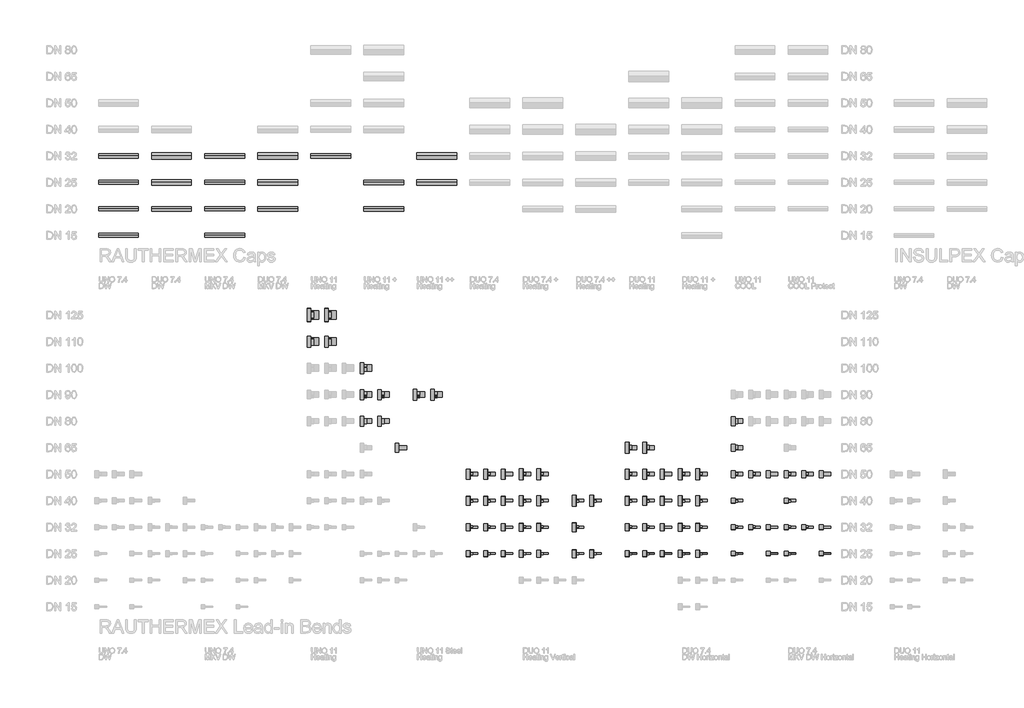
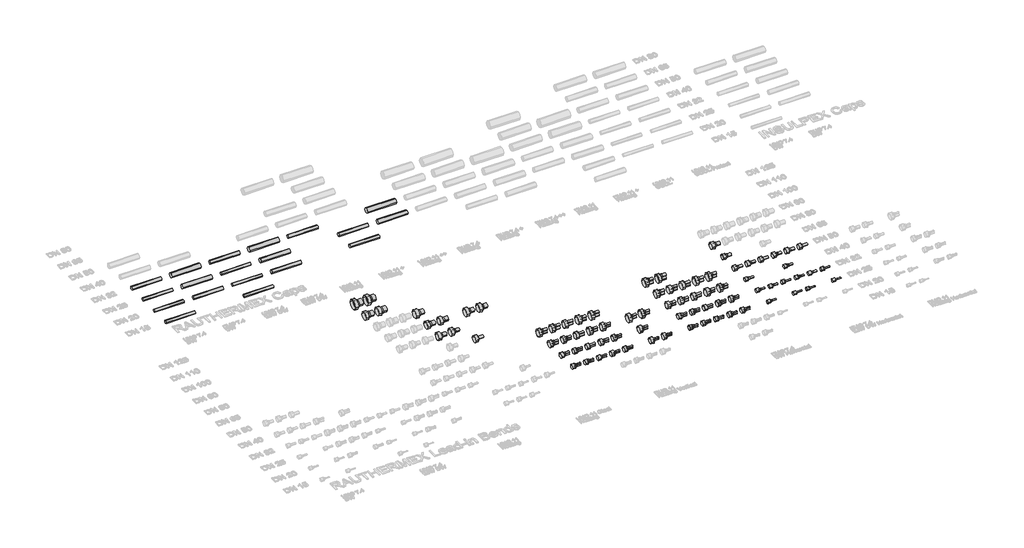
# One storey, part 2 of 44: 79 pipe fittings, 19 pipe segments.
"""IFC4 building model written with IfcOpenShell, lengths in millimetres."""

from ifc_helpers import new_model, si_unit, point, frame, frame_2d, origin, place, context, project, spatial, circle_curve, trimmed, segment, composite_curve, outline, extrude, transform, mapped, element, save
from components import dh_duo_cap_a401f0f0, dh_duo_cap_03c105d8, dh_duo_cap_912dcadd, dh_duo_cap_b1a9b0d2, dh_duo_cap_5dd0b46b, dh_duo_cap_e54493b7, dh_duo_cap_7ef36e62, dh_duo_cap_bc41557e, dh_duo_cap_466f777b, dh_duo_cap_99a229fd, dh_duo_cap_04a83930, dh_duo_cap_9e0c2c41, dh_duo_cap_2d3aefab, dh_duo_cap_8982807d, dh_duo_cap_f27f4780, dh_duo_cap_196220e5, dh_duo_cap_34ed25f1, dh_duo_cap_d5bb5216, dh_duo_cap_5f18a8b2, dh_duo_cap_8b861d38, dh_duo_cap_26cdef8a, dh_duo_cap_7816df85, dh_duo_cap_2d6c33d1, dh_duo_cap_d277d169, dh_duo_cap_9ab5b0d0, dh_duo_cap_b70f6ac3, dh_duo_cap_83a6e4d1, dh_duo_cap_54e0e9d7, dh_uno_cap_6299298e, dh_uno_cap_723df487, dh_uno_cap_461313df, dh_uno_cap_9742cd2a, dh_uno_cap_fcaf9898, dh_uno_cap_330119eb, dh_uno_cap_0af3b0e1, dh_uno_cap_96114e43, dh_uno_cap_b77fc7ff, dh_uno_cap_d341a48a, dh_uno_cap_33b70dba, dh_uno_cap_ae134bf0, dh_uno_cap_e3f4356c, dh_uno_cap_bb0927de, dh_uno_cap_075bc3ed, dh_uno_cap_7d83968b

model = new_model("IFC4")

# Units and contexts
model_context = context("Model", 3, world=origin())
ifc_project = project(units=[si_unit("LENGTHUNIT", "METRE", prefix="MILLI")], contexts=[model_context])

# Site, building, storey
site = spatial("IfcSite", under=ifc_project)
building = spatial("IfcBuilding", under=site)
storey = spatial("IfcBuildingStorey", under=building, Name="REHAU Starting view", Elevation=0.0)

# Pipe fittings
placement = place(None, origin())
dh_duo_cap_shape = dh_duo_cap_a401f0f0(model_context)
element("IfcPipeFitting", 1, ObjectType="DH_DUO_CAP : RAUTHERMEX DUO 11 Heating - Schrink Cap", at=placement, inside=storey, context=model_context, shape_type="MappedRepresentation", body=[
    mapped(dh_duo_cap_shape, transform((11000.0, 8000.0, 0.0), x_axis=(1.0, 0.0, 0.0), y_axis=(0.0, 1.0, 0.0), z_axis=(0.0, 0.0, 1.0))),
])
dh_duo_cap_2_shape = dh_duo_cap_03c105d8(model_context)
element("IfcPipeFitting", 2, ObjectType="DH_DUO_CAP : RAUTHERMEX DUO + 7.4 Heating - Schrink Cap", at=placement, inside=storey, context=model_context, shape_type="MappedRepresentation", body=[
    mapped(dh_duo_cap_2_shape, transform((9000.0, 8000.0, 0.0), x_axis=(1.0, 0.0, 0.0), y_axis=(0.0, 1.0, 0.0), z_axis=(0.0, 0.0, 1.0))),
])
dh_duo_cap_3_shape = dh_duo_cap_912dcadd(model_context)
element("IfcPipeFitting", 3, ObjectType="DH_DUO_CAP : RAUTHERMEX DUO ++ 7.4 Heating - Schrink Cap", at=placement, inside=storey, context=model_context, shape_type="MappedRepresentation", body=[
    mapped(dh_duo_cap_3_shape, transform((10000.0, 8000.0, 0.0), x_axis=(1.0, 0.0, 0.0), y_axis=(0.0, 1.0, 0.0), z_axis=(0.0, 0.0, 1.0))),
])
dh_duo_cap_4_shape = dh_duo_cap_b1a9b0d2(model_context)
element("IfcPipeFitting", 4, ObjectType="DH_DUO_CAP : RAUTHERMEX DUO 7.4 Heating - Schrink Cap", at=placement, inside=storey, context=model_context, shape_type="MappedRepresentation", body=[
    mapped(dh_duo_cap_4_shape, transform((8000.0, 8000.0, 0.0), x_axis=(1.0, 0.0, 0.0), y_axis=(0.0, 1.0, 0.0), z_axis=(0.0, 0.0, 1.0))),
])
element("IfcPipeFitting", 5, ObjectType="DH_DUO_CAP : RAUTHERMEX DUO + 7.4 Heating - Rubber Cap", at=placement, inside=storey, context=model_context, shape_type="MappedRepresentation", body=[
    mapped(dh_duo_cap_2_shape, transform((9330.0, 8000.0, 0.0), x_axis=(1.0, 0.0, 0.0), y_axis=(0.0, 1.0, 0.0), z_axis=(0.0, 0.0, 1.0))),
])
element("IfcPipeFitting", 6, ObjectType="DH_DUO_CAP : RAUTHERMEX DUO ++ 7.4 Heating - Rubber Cap", at=placement, inside=storey, context=model_context, shape_type="MappedRepresentation", body=[
    mapped(dh_duo_cap_3_shape, transform((10330.0, 8000.0, 0.0), x_axis=(1.0, 0.0, 0.0), y_axis=(0.0, 1.0, 0.0), z_axis=(0.0, 0.0, 1.0))),
])
element("IfcPipeFitting", 7, ObjectType="DH_DUO_CAP : RAUTHERMEX DUO 11 Heating - Rubber Cap", at=placement, inside=storey, context=model_context, shape_type="MappedRepresentation", body=[
    mapped(dh_duo_cap_shape, transform((11330.0, 8000.0, 0.0), x_axis=(1.0, 0.0, 0.0), y_axis=(0.0, 1.0, 0.0), z_axis=(0.0, 0.0, 1.0))),
])
element("IfcPipeFitting", 8, ObjectType="DH_DUO_CAP : RAUTHERMEX DUO 7.4 Heating - Rubber Cap", at=placement, inside=storey, context=model_context, shape_type="MappedRepresentation", body=[
    mapped(dh_duo_cap_4_shape, transform((8330.0, 8000.0, 0.0), x_axis=(1.0, 0.0, 0.0), y_axis=(0.0, 1.0, 0.0), z_axis=(0.0, 0.0, 1.0))),
])
dh_duo_cap_5_shape = dh_duo_cap_5dd0b46b(model_context)
element("IfcPipeFitting", 9, ObjectType="DH_DUO_CAP : RAUTHERMEX DUO 11 Heating - Solid Cap", at=placement, inside=storey, context=model_context, shape_type="MappedRepresentation", body=[
    mapped(dh_duo_cap_5_shape, transform((11660.0, 8000.0, 0.0), x_axis=(1.0, 0.0, 0.0), y_axis=(0.0, 1.0, 0.0), z_axis=(0.0, 0.0, 1.0))),
])
dh_duo_cap_6_shape = dh_duo_cap_e54493b7(model_context)
element("IfcPipeFitting", 10, ObjectType="DH_DUO_CAP : RAUTHERMEX DUO 7.4 Heating - Solid Cap", at=placement, inside=storey, context=model_context, shape_type="MappedRepresentation", body=[
    mapped(dh_duo_cap_6_shape, transform((8660.0, 8000.0, 0.0), x_axis=(1.0, 0.0, 0.0), y_axis=(0.0, 1.0, 0.0), z_axis=(0.0, 0.0, 1.0))),
])
dh_duo_cap_7_shape = dh_duo_cap_7ef36e62(model_context)
element("IfcPipeFitting", 11, ObjectType="DH_DUO_CAP : RAUTHERMEX DUO 7.4 Heating - Schrink Cap", at=placement, inside=storey, context=model_context, shape_type="MappedRepresentation", body=[
    mapped(dh_duo_cap_7_shape, transform((8000.0, 8500.0, 0.0), x_axis=(1.0, 0.0, 0.0), y_axis=(0.0, 1.0, 0.0), z_axis=(0.0, 0.0, 1.0))),
])
element("IfcPipeFitting", 12, ObjectType="DH_DUO_CAP : RAUTHERMEX DUO 7.4 Heating - Rubber Cap", at=placement, inside=storey, context=model_context, shape_type="MappedRepresentation", body=[
    mapped(dh_duo_cap_7_shape, transform((8330.0, 8500.0, 0.0), x_axis=(1.0, 0.0, 0.0), y_axis=(0.0, 1.0, 0.0), z_axis=(0.0, 0.0, 1.0))),
])
dh_duo_cap_8_shape = dh_duo_cap_bc41557e(model_context)
element("IfcPipeFitting", 13, ObjectType="DH_DUO_CAP : RAUTHERMEX DUO 7.4 Heating - Solid Cap", at=placement, inside=storey, context=model_context, shape_type="MappedRepresentation", body=[
    mapped(dh_duo_cap_8_shape, transform((8660.0, 8500.0, 0.0), x_axis=(1.0, 0.0, 0.0), y_axis=(0.0, 1.0, 0.0), z_axis=(0.0, 0.0, 1.0))),
])
dh_duo_cap_9_shape = dh_duo_cap_466f777b(model_context)
element("IfcPipeFitting", 14, ObjectType="DH_DUO_CAP : RAUTHERMEX DUO 7.4 Heating - Schrink Cap", at=placement, inside=storey, context=model_context, shape_type="MappedRepresentation", body=[
    mapped(dh_duo_cap_9_shape, transform((8000.0, 9000.0, 0.0), x_axis=(1.0, 0.0, 0.0), y_axis=(0.0, 1.0, 0.0), z_axis=(0.0, 0.0, 1.0))),
])
element("IfcPipeFitting", 15, ObjectType="DH_DUO_CAP : RAUTHERMEX DUO 7.4 Heating - Rubber Cap", at=placement, inside=storey, context=model_context, shape_type="MappedRepresentation", body=[
    mapped(dh_duo_cap_9_shape, transform((8330.0, 9000.0, 0.0), x_axis=(1.0, 0.0, 0.0), y_axis=(0.0, 1.0, 0.0), z_axis=(0.0, 0.0, 1.0))),
])
dh_duo_cap_10_shape = dh_duo_cap_99a229fd(model_context)
element("IfcPipeFitting", 16, ObjectType="DH_DUO_CAP : RAUTHERMEX DUO 7.4 Heating - Solid Cap", at=placement, inside=storey, context=model_context, shape_type="MappedRepresentation", body=[
    mapped(dh_duo_cap_10_shape, transform((8660.0, 9000.0, 0.0), x_axis=(1.0, 0.0, 0.0), y_axis=(0.0, 1.0, 0.0), z_axis=(0.0, 0.0, 1.0))),
])
dh_duo_cap_11_shape = dh_duo_cap_04a83930(model_context)
element("IfcPipeFitting", 17, ObjectType="DH_DUO_CAP : RAUTHERMEX DUO 7.4 Heating - Schrink Cap", at=placement, inside=storey, context=model_context, shape_type="MappedRepresentation", body=[
    mapped(dh_duo_cap_11_shape, transform((8000.0, 9500.0, 0.0), x_axis=(1.0, 0.0, 0.0), y_axis=(0.0, 1.0, 0.0), z_axis=(0.0, 0.0, 1.0))),
])
element("IfcPipeFitting", 18, ObjectType="DH_DUO_CAP : RAUTHERMEX DUO 7.4 Heating - Rubber Cap", at=placement, inside=storey, context=model_context, shape_type="MappedRepresentation", body=[
    mapped(dh_duo_cap_11_shape, transform((8330.0, 9500.0, 0.0), x_axis=(1.0, 0.0, 0.0), y_axis=(0.0, 1.0, 0.0), z_axis=(0.0, 0.0, 1.0))),
])
dh_duo_cap_12_shape = dh_duo_cap_9e0c2c41(model_context)
element("IfcPipeFitting", 19, ObjectType="DH_DUO_CAP : RAUTHERMEX DUO 7.4 Heating - Solid Cap", at=placement, inside=storey, context=model_context, shape_type="MappedRepresentation", body=[
    mapped(dh_duo_cap_12_shape, transform((8660.0, 9500.0, 0.0), x_axis=(1.0, 0.0, 0.0), y_axis=(0.0, 1.0, 0.0), z_axis=(0.0, 0.0, 1.0))),
])
dh_duo_cap_13_shape = dh_duo_cap_2d3aefab(model_context)
element("IfcPipeFitting", 20, ObjectType="DH_DUO_CAP : RAUTHERMEX DUO + 7.4 Heating - Schrink Cap", at=placement, inside=storey, context=model_context, shape_type="MappedRepresentation", body=[
    mapped(dh_duo_cap_13_shape, transform((9000.0, 8500.0, 0.0), x_axis=(1.0, 0.0, 0.0), y_axis=(0.0, 1.0, 0.0), z_axis=(0.0, 0.0, 1.0))),
])
element("IfcPipeFitting", 21, ObjectType="DH_DUO_CAP : RAUTHERMEX DUO + 7.4 Heating - Rubber Cap", at=placement, inside=storey, context=model_context, shape_type="MappedRepresentation", body=[
    mapped(dh_duo_cap_13_shape, transform((9330.0, 8500.0, 0.0), x_axis=(1.0, 0.0, 0.0), y_axis=(0.0, 1.0, 0.0), z_axis=(0.0, 0.0, 1.0))),
])
dh_duo_cap_14_shape = dh_duo_cap_8982807d(model_context)
element("IfcPipeFitting", 22, ObjectType="DH_DUO_CAP : RAUTHERMEX DUO + 7.4 Heating - Schrink Cap", at=placement, inside=storey, context=model_context, shape_type="MappedRepresentation", body=[
    mapped(dh_duo_cap_14_shape, transform((9000.0, 9000.0, 0.0), x_axis=(1.0, 0.0, 0.0), y_axis=(0.0, 1.0, 0.0), z_axis=(0.0, 0.0, 1.0))),
])
element("IfcPipeFitting", 23, ObjectType="DH_DUO_CAP : RAUTHERMEX DUO + 7.4 Heating - Rubber Cap", at=placement, inside=storey, context=model_context, shape_type="MappedRepresentation", body=[
    mapped(dh_duo_cap_14_shape, transform((9330.0, 9000.0, 0.0), x_axis=(1.0, 0.0, 0.0), y_axis=(0.0, 1.0, 0.0), z_axis=(0.0, 0.0, 1.0))),
])
dh_duo_cap_15_shape = dh_duo_cap_f27f4780(model_context)
element("IfcPipeFitting", 24, ObjectType="DH_DUO_CAP : RAUTHERMEX DUO + 7.4 Heating - Schrink Cap", at=placement, inside=storey, context=model_context, shape_type="MappedRepresentation", body=[
    mapped(dh_duo_cap_15_shape, transform((9000.0, 9500.0, 0.0), x_axis=(1.0, 0.0, 0.0), y_axis=(0.0, 1.0, 0.0), z_axis=(0.0, 0.0, 1.0))),
])
element("IfcPipeFitting", 25, ObjectType="DH_DUO_CAP : RAUTHERMEX DUO + 7.4 Heating - Rubber Cap", at=placement, inside=storey, context=model_context, shape_type="MappedRepresentation", body=[
    mapped(dh_duo_cap_15_shape, transform((9330.0, 9500.0, 0.0), x_axis=(1.0, 0.0, 0.0), y_axis=(0.0, 1.0, 0.0), z_axis=(0.0, 0.0, 1.0))),
])
dh_duo_cap_16_shape = dh_duo_cap_196220e5(model_context)
element("IfcPipeFitting", 26, ObjectType="DH_DUO_CAP : RAUTHERMEX DUO ++ 7.4 Heating - Schrink Cap", at=placement, inside=storey, context=model_context, shape_type="MappedRepresentation", body=[
    mapped(dh_duo_cap_16_shape, transform((10000.0, 8500.0, 0.0), x_axis=(1.0, 0.0, 0.0), y_axis=(0.0, 1.0, 0.0), z_axis=(0.0, 0.0, 1.0))),
])
dh_duo_cap_17_shape = dh_duo_cap_34ed25f1(model_context)
element("IfcPipeFitting", 27, ObjectType="DH_DUO_CAP : RAUTHERMEX DUO ++ 7.4 Heating - Schrink Cap", at=placement, inside=storey, context=model_context, shape_type="MappedRepresentation", body=[
    mapped(dh_duo_cap_17_shape, transform((10000.0, 9000.0, 0.0), x_axis=(1.0, 0.0, 0.0), y_axis=(0.0, 1.0, 0.0), z_axis=(0.0, 0.0, 1.0))),
])
element("IfcPipeFitting", 28, ObjectType="DH_DUO_CAP : RAUTHERMEX DUO ++ 7.4 Heating - Rubber Cap", at=placement, inside=storey, context=model_context, shape_type="MappedRepresentation", body=[
    mapped(dh_duo_cap_17_shape, transform((10330.0, 9000.0, 0.0), x_axis=(1.0, 0.0, 0.0), y_axis=(0.0, 1.0, 0.0), z_axis=(0.0, 0.0, 1.0))),
])
dh_duo_cap_18_shape = dh_duo_cap_d5bb5216(model_context)
element("IfcPipeFitting", 29, ObjectType="DH_DUO_CAP : RAUTHERMEX DUO 11 Heating - Rubber Cap", at=placement, inside=storey, context=model_context, shape_type="MappedRepresentation", body=[
    mapped(dh_duo_cap_18_shape, transform((11330.0, 8500.0, 0.0), x_axis=(1.0, 0.0, 0.0), y_axis=(0.0, 1.0, 0.0), z_axis=(0.0, 0.0, 1.0))),
])
element("IfcPipeFitting", 30, ObjectType="DH_DUO_CAP : RAUTHERMEX DUO 11 Heating - Schrink Cap", at=placement, inside=storey, context=model_context, shape_type="MappedRepresentation", body=[
    mapped(dh_duo_cap_18_shape, transform((11000.0, 8500.0, 0.0), x_axis=(1.0, 0.0, 0.0), y_axis=(0.0, 1.0, 0.0), z_axis=(0.0, 0.0, 1.0))),
])
dh_duo_cap_19_shape = dh_duo_cap_5f18a8b2(model_context)
element("IfcPipeFitting", 31, ObjectType="DH_DUO_CAP : RAUTHERMEX DUO 11 Heating - Solid Cap", at=placement, inside=storey, context=model_context, shape_type="MappedRepresentation", body=[
    mapped(dh_duo_cap_19_shape, transform((11660.0, 8500.0, 0.0), x_axis=(1.0, 0.0, 0.0), y_axis=(0.0, 1.0, 0.0), z_axis=(0.0, 0.0, 1.0))),
])
dh_duo_cap_20_shape = dh_duo_cap_8b861d38(model_context)
element("IfcPipeFitting", 32, ObjectType="DH_DUO_CAP : RAUTHERMEX DUO 11 Heating - Rubber Cap", at=placement, inside=storey, context=model_context, shape_type="MappedRepresentation", body=[
    mapped(dh_duo_cap_20_shape, transform((11330.0, 9000.0, 0.0), x_axis=(1.0, 0.0, 0.0), y_axis=(0.0, 1.0, 0.0), z_axis=(0.0, 0.0, 1.0))),
])
element("IfcPipeFitting", 33, ObjectType="DH_DUO_CAP : RAUTHERMEX DUO 11 Heating - Schrink Cap", at=placement, inside=storey, context=model_context, shape_type="MappedRepresentation", body=[
    mapped(dh_duo_cap_20_shape, transform((11000.0, 9000.0, 0.0), x_axis=(1.0, 0.0, 0.0), y_axis=(0.0, 1.0, 0.0), z_axis=(0.0, 0.0, 1.0))),
])
dh_duo_cap_21_shape = dh_duo_cap_26cdef8a(model_context)
element("IfcPipeFitting", 34, ObjectType="DH_DUO_CAP : RAUTHERMEX DUO 11 Heating - Solid Cap", at=placement, inside=storey, context=model_context, shape_type="MappedRepresentation", body=[
    mapped(dh_duo_cap_21_shape, transform((11660.0, 9000.0, 0.0), x_axis=(1.0, 0.0, 0.0), y_axis=(0.0, 1.0, 0.0), z_axis=(0.0, 0.0, 1.0))),
])
dh_duo_cap_22_shape = dh_duo_cap_7816df85(model_context)
element("IfcPipeFitting", 35, ObjectType="DH_DUO_CAP : RAUTHERMEX DUO 11 Heating - Rubber Cap", at=placement, inside=storey, context=model_context, shape_type="MappedRepresentation", body=[
    mapped(dh_duo_cap_22_shape, transform((11330.0, 9500.0, 0.0), x_axis=(1.0, 0.0, 0.0), y_axis=(0.0, 1.0, 0.0), z_axis=(0.0, 0.0, 1.0))),
])
element("IfcPipeFitting", 36, ObjectType="DH_DUO_CAP : RAUTHERMEX DUO 11 Heating - Schrink Cap", at=placement, inside=storey, context=model_context, shape_type="MappedRepresentation", body=[
    mapped(dh_duo_cap_22_shape, transform((11000.0, 9500.0, 0.0), x_axis=(1.0, 0.0, 0.0), y_axis=(0.0, 1.0, 0.0), z_axis=(0.0, 0.0, 1.0))),
])
dh_duo_cap_23_shape = dh_duo_cap_2d6c33d1(model_context)
element("IfcPipeFitting", 37, ObjectType="DH_DUO_CAP : RAUTHERMEX DUO 11 Heating - Solid Cap", at=placement, inside=storey, context=model_context, shape_type="MappedRepresentation", body=[
    mapped(dh_duo_cap_23_shape, transform((11660.0, 9500.0, 0.0), x_axis=(1.0, 0.0, 0.0), y_axis=(0.0, 1.0, 0.0), z_axis=(0.0, 0.0, 1.0))),
])
dh_duo_cap_24_shape = dh_duo_cap_d277d169(model_context)
element("IfcPipeFitting", 38, ObjectType="DH_DUO_CAP : RAUTHERMEX DUO 11 Heating - Rubber Cap", at=placement, inside=storey, context=model_context, shape_type="MappedRepresentation", body=[
    mapped(dh_duo_cap_24_shape, transform((11330.0, 10000.0, 0.0), x_axis=(1.0, 0.0, 0.0), y_axis=(0.0, 1.0, 0.0), z_axis=(0.0, 0.0, 1.0))),
])
element("IfcPipeFitting", 39, ObjectType="DH_DUO_CAP : RAUTHERMEX DUO 11 Heating - Schrink Cap", at=placement, inside=storey, context=model_context, shape_type="MappedRepresentation", body=[
    mapped(dh_duo_cap_24_shape, transform((11000.0, 10000.0, 0.0), x_axis=(1.0, 0.0, 0.0), y_axis=(0.0, 1.0, 0.0), z_axis=(0.0, 0.0, 1.0))),
])
dh_duo_cap_25_shape = dh_duo_cap_9ab5b0d0(model_context)
element("IfcPipeFitting", 40, ObjectType="DH_DUO_CAP : RAUTHERMEX DUO + 11 Heating - Rubber Cap", at=placement, inside=storey, context=model_context, shape_type="MappedRepresentation", body=[
    mapped(dh_duo_cap_25_shape, transform((12330.0, 8000.0, 0.0), x_axis=(1.0, 0.0, 0.0), y_axis=(0.0, 1.0, 0.0), z_axis=(0.0, 0.0, 1.0))),
])
element("IfcPipeFitting", 41, ObjectType="DH_DUO_CAP : RAUTHERMEX DUO + 11 Heating - Schrink Cap", at=placement, inside=storey, context=model_context, shape_type="MappedRepresentation", body=[
    mapped(dh_duo_cap_25_shape, transform((12000.0, 8000.0, 0.0), x_axis=(1.0, 0.0, 0.0), y_axis=(0.0, 1.0, 0.0), z_axis=(0.0, 0.0, 1.0))),
])
dh_duo_cap_26_shape = dh_duo_cap_b70f6ac3(model_context)
element("IfcPipeFitting", 42, ObjectType="DH_DUO_CAP : RAUTHERMEX DUO + 11 Heating - Rubber Cap", at=placement, inside=storey, context=model_context, shape_type="MappedRepresentation", body=[
    mapped(dh_duo_cap_26_shape, transform((12330.0, 8500.0, 0.0), x_axis=(1.0, 0.0, 0.0), y_axis=(0.0, 1.0, 0.0), z_axis=(0.0, 0.0, 1.0))),
])
element("IfcPipeFitting", 43, ObjectType="DH_DUO_CAP : RAUTHERMEX DUO + 11 Heating - Schrink Cap", at=placement, inside=storey, context=model_context, shape_type="MappedRepresentation", body=[
    mapped(dh_duo_cap_26_shape, transform((12000.0, 8500.0, 0.0), x_axis=(1.0, 0.0, 0.0), y_axis=(0.0, 1.0, 0.0), z_axis=(0.0, 0.0, 1.0))),
])
dh_duo_cap_27_shape = dh_duo_cap_83a6e4d1(model_context)
element("IfcPipeFitting", 44, ObjectType="DH_DUO_CAP : RAUTHERMEX DUO + 11 Heating - Rubber Cap", at=placement, inside=storey, context=model_context, shape_type="MappedRepresentation", body=[
    mapped(dh_duo_cap_27_shape, transform((12330.0, 9000.0, 0.0), x_axis=(1.0, 0.0, 0.0), y_axis=(0.0, 1.0, 0.0), z_axis=(0.0, 0.0, 1.0))),
])
element("IfcPipeFitting", 45, ObjectType="DH_DUO_CAP : RAUTHERMEX DUO + 11 Heating - Schrink Cap", at=placement, inside=storey, context=model_context, shape_type="MappedRepresentation", body=[
    mapped(dh_duo_cap_27_shape, transform((12000.0, 9000.0, 0.0), x_axis=(1.0, 0.0, 0.0), y_axis=(0.0, 1.0, 0.0), z_axis=(0.0, 0.0, 1.0))),
])
dh_duo_cap_28_shape = dh_duo_cap_54e0e9d7(model_context)
element("IfcPipeFitting", 46, ObjectType="DH_DUO_CAP : RAUTHERMEX DUO + 11 Heating - Rubber Cap", at=placement, inside=storey, context=model_context, shape_type="MappedRepresentation", body=[
    mapped(dh_duo_cap_28_shape, transform((12330.0, 9500.0, 0.0), x_axis=(1.0, 0.0, 0.0), y_axis=(0.0, 1.0, 0.0), z_axis=(0.0, 0.0, 1.0))),
])
element("IfcPipeFitting", 47, ObjectType="DH_DUO_CAP : RAUTHERMEX DUO + 11 Heating - Schrink Cap", at=placement, inside=storey, context=model_context, shape_type="MappedRepresentation", body=[
    mapped(dh_duo_cap_28_shape, transform((12000.0, 9500.0, 0.0), x_axis=(1.0, 0.0, 0.0), y_axis=(0.0, 1.0, 0.0), z_axis=(0.0, 0.0, 1.0))),
])
dh_uno_cap_shape = dh_uno_cap_6299298e(model_context)
element("IfcPipeFitting", 48, ObjectType="DH_UNO_CAP : RAUTHERMEX UNO 11 COOL - Schrink Cap", at=placement, inside=storey, context=model_context, shape_type="MappedRepresentation", body=[
    mapped(dh_uno_cap_shape, transform((13000.0, 8000.0, 0.0), x_axis=(1.0, 0.0, 0.0), y_axis=(0.0, 1.0, 0.0), z_axis=(0.0, 0.0, 1.0))),
])
dh_uno_cap_2_shape = dh_uno_cap_723df487(model_context)
element("IfcPipeFitting", 49, ObjectType="DH_UNO_CAP : RAUTHERMEX UNO 11 COOL - Rubber Cap", at=placement, inside=storey, context=model_context, shape_type="MappedRepresentation", body=[
    mapped(dh_uno_cap_2_shape, transform((13330.0, 8500.0, 0.0), x_axis=(1.0, 0.0, 0.0), y_axis=(0.0, 1.0, 0.0), z_axis=(0.0, 0.0, 1.0))),
])
dh_uno_cap_3_shape = dh_uno_cap_461313df(model_context)
element("IfcPipeFitting", 50, ObjectType="DH_UNO_CAP : RAUTHERMEX UNO 11 COOL - Solid Cap", at=placement, inside=storey, context=model_context, shape_type="MappedRepresentation", body=[
    mapped(dh_uno_cap_3_shape, transform((13660.0, 8000.0, 0.0), x_axis=(1.0, 0.0, 0.0), y_axis=(0.0, 1.0, 0.0), z_axis=(0.0, 0.0, 1.0))),
])
element("IfcPipeFitting", 51, ObjectType="DH_UNO_CAP : RAUTHERMEX UNO 11 COOL Protect - Rubber Cap", at=placement, inside=storey, context=model_context, shape_type="MappedRepresentation", body=[
    mapped(dh_uno_cap_2_shape, transform((14330.0, 8500.0, 0.0), x_axis=(1.0, 0.0, 0.0), y_axis=(0.0, 1.0, 0.0), z_axis=(0.0, 0.0, 1.0))),
])
element("IfcPipeFitting", 52, ObjectType="DH_UNO_CAP : RAUTHERMEX UNO 11 COOL Protect - Schrink Cap", at=placement, inside=storey, context=model_context, shape_type="MappedRepresentation", body=[
    mapped(dh_uno_cap_2_shape, transform((14000.0, 8500.0, 0.0), x_axis=(1.0, 0.0, 0.0), y_axis=(0.0, 1.0, 0.0), z_axis=(0.0, 0.0, 1.0))),
])
dh_uno_cap_4_shape = dh_uno_cap_9742cd2a(model_context)
element("IfcPipeFitting", 53, ObjectType="DH_UNO_CAP : RAUTHERMEX UNO 11 COOL Protect - Solid Cap", at=placement, inside=storey, context=model_context, shape_type="MappedRepresentation", body=[
    mapped(dh_uno_cap_4_shape, transform((14660.0, 8500.0, 0.0), x_axis=(1.0, 0.0, 0.0), y_axis=(0.0, 1.0, 0.0), z_axis=(0.0, 0.0, 1.0))),
])
dh_uno_cap_5_shape = dh_uno_cap_fcaf9898(model_context)
element("IfcPipeFitting", 54, ObjectType="DH_UNO_CAP : RAUTHERMEX UNO 11 Heating - Schrink Cap", at=placement, inside=storey, context=model_context, shape_type="MappedRepresentation", body=[
    mapped(dh_uno_cap_5_shape, transform((5000.0, 12000.0, 0.0), x_axis=(1.0, 0.0, 0.0), y_axis=(0.0, 1.0, 0.0), z_axis=(0.0, 0.0, 1.0))),
])
element("IfcPipeFitting", 55, ObjectType="DH_UNO_CAP : RAUTHERMEX UNO 11 Heating - Rubber Cap", at=placement, inside=storey, context=model_context, shape_type="MappedRepresentation", body=[
    mapped(dh_uno_cap_5_shape, transform((5330.0, 12000.0, 0.0), x_axis=(1.0, 0.0, 0.0), y_axis=(0.0, 1.0, 0.0), z_axis=(0.0, 0.0, 1.0))),
])
dh_uno_cap_6_shape = dh_uno_cap_330119eb(model_context)
element("IfcPipeFitting", 56, ObjectType="DH_UNO_CAP : RAUTHERMEX UNO 11 Heating - Schrink Cap", at=placement, inside=storey, context=model_context, shape_type="MappedRepresentation", body=[
    mapped(dh_uno_cap_6_shape, transform((5000.0, 12500.0, 0.0), x_axis=(1.0, 0.0, 0.0), y_axis=(0.0, 1.0, 0.0), z_axis=(0.0, 0.0, 1.0))),
])
element("IfcPipeFitting", 57, ObjectType="DH_UNO_CAP : RAUTHERMEX UNO 11 Heating - Schrink Cap", at=placement, inside=storey, context=model_context, shape_type="MappedRepresentation", body=[
    mapped(dh_uno_cap_6_shape, transform((5330.0, 12500.0, 0.0), x_axis=(1.0, 0.0, 0.0), y_axis=(0.0, 1.0, 0.0), z_axis=(0.0, 0.0, 1.0))),
])
element("IfcPipeFitting", 58, ObjectType="DH_UNO_CAP : RAUTHERMEX UNO 11 COOL - Schrink Cap", at=placement, inside=storey, context=model_context, shape_type="MappedRepresentation", body=[
    mapped(dh_uno_cap_2_shape, transform((13000.0, 8500.0, 0.0), x_axis=(1.0, 0.0, 0.0), y_axis=(0.0, 1.0, 0.0), z_axis=(0.0, 0.0, 1.0))),
])
element("IfcPipeFitting", 59, ObjectType="DH_UNO_CAP : RAUTHERMEX UNO 11 COOL - Solid Cap", at=placement, inside=storey, context=model_context, shape_type="MappedRepresentation", body=[
    mapped(dh_uno_cap_4_shape, transform((13660.0, 8500.0, 0.0), x_axis=(1.0, 0.0, 0.0), y_axis=(0.0, 1.0, 0.0), z_axis=(0.0, 0.0, 1.0))),
])
dh_uno_cap_7_shape = dh_uno_cap_0af3b0e1(model_context)
element("IfcPipeFitting", 60, ObjectType="DH_UNO_CAP : RAUTHERMEX UNO 11 COOL - Schrink Cap", at=placement, inside=storey, context=model_context, shape_type="MappedRepresentation", body=[
    mapped(dh_uno_cap_7_shape, transform((13000.0, 9000.0, 0.0), x_axis=(1.0, 0.0, 0.0), y_axis=(0.0, 1.0, 0.0), z_axis=(0.0, 0.0, 1.0))),
])
dh_uno_cap_8_shape = dh_uno_cap_96114e43(model_context)
element("IfcPipeFitting", 61, ObjectType="DH_UNO_CAP : RAUTHERMEX UNO 11 COOL - Schrink Cap", at=placement, inside=storey, context=model_context, shape_type="MappedRepresentation", body=[
    mapped(dh_uno_cap_8_shape, transform((13000.0, 9500.0, 0.0), x_axis=(1.0, 0.0, 0.0), y_axis=(0.0, 1.0, 0.0), z_axis=(0.0, 0.0, 1.0))),
])
element("IfcPipeFitting", 62, ObjectType="DH_UNO_CAP : RAUTHERMEX UNO 11 COOL - Rubber Cap", at=placement, inside=storey, context=model_context, shape_type="MappedRepresentation", body=[
    mapped(dh_uno_cap_8_shape, transform((13330.0, 9500.0, 0.0), x_axis=(1.0, 0.0, 0.0), y_axis=(0.0, 1.0, 0.0), z_axis=(0.0, 0.0, 1.0))),
])
dh_uno_cap_9_shape = dh_uno_cap_b77fc7ff(model_context)
element("IfcPipeFitting", 63, ObjectType="DH_UNO_CAP : RAUTHERMEX UNO 11 COOL - Solid Cap", at=placement, inside=storey, context=model_context, shape_type="MappedRepresentation", body=[
    mapped(dh_uno_cap_9_shape, transform((13660.0, 9500.0, 0.0), x_axis=(1.0, 0.0, 0.0), y_axis=(0.0, 1.0, 0.0), z_axis=(0.0, 0.0, 1.0))),
])
dh_uno_cap_10_shape = dh_uno_cap_d341a48a(model_context)
element("IfcPipeFitting", 64, ObjectType="DH_UNO_CAP : RAUTHERMEX UNO 11 COOL - Schrink Cap", at=placement, inside=storey, context=model_context, shape_type="MappedRepresentation", body=[
    mapped(dh_uno_cap_10_shape, transform((13000.0, 10000.0, 0.0), x_axis=(1.0, 0.0, 0.0), y_axis=(0.0, 1.0, 0.0), z_axis=(0.0, 0.0, 1.0))),
])
dh_uno_cap_11_shape = dh_uno_cap_33b70dba(model_context)
element("IfcPipeFitting", 65, ObjectType="DH_UNO_CAP : RAUTHERMEX UNO 11 COOL - Schrink Cap", at=placement, inside=storey, context=model_context, shape_type="MappedRepresentation", body=[
    mapped(dh_uno_cap_11_shape, transform((13000.0, 10500.0, 0.0), x_axis=(1.0, 0.0, 0.0), y_axis=(0.0, 1.0, 0.0), z_axis=(0.0, 0.0, 1.0))),
])
element("IfcPipeFitting", 66, ObjectType="DH_UNO_CAP : RAUTHERMEX UNO 11 COOL Protect - Schrink Cap", at=placement, inside=storey, context=model_context, shape_type="MappedRepresentation", body=[
    mapped(dh_uno_cap_shape, transform((14000.0, 8000.0, 0.0), x_axis=(1.0, 0.0, 0.0), y_axis=(0.0, 1.0, 0.0), z_axis=(0.0, 0.0, 1.0))),
])
element("IfcPipeFitting", 67, ObjectType="DH_UNO_CAP : RAUTHERMEX UNO 11 COOL Protect - Solid Cap", at=placement, inside=storey, context=model_context, shape_type="MappedRepresentation", body=[
    mapped(dh_uno_cap_3_shape, transform((14660.0, 8000.0, 0.0), x_axis=(1.0, 0.0, 0.0), y_axis=(0.0, 1.0, 0.0), z_axis=(0.0, 0.0, 1.0))),
])
element("IfcPipeFitting", 68, ObjectType="DH_UNO_CAP : RAUTHERMEX UNO 11 COOL Protect - Schrink Cap", at=placement, inside=storey, context=model_context, shape_type="MappedRepresentation", body=[
    mapped(dh_uno_cap_7_shape, transform((14000.0, 9000.0, 0.0), x_axis=(1.0, 0.0, 0.0), y_axis=(0.0, 1.0, 0.0), z_axis=(0.0, 0.0, 1.0))),
])
element("IfcPipeFitting", 69, ObjectType="DH_UNO_CAP : RAUTHERMEX UNO 11 COOL Protect - Schrink Cap", at=placement, inside=storey, context=model_context, shape_type="MappedRepresentation", body=[
    mapped(dh_uno_cap_8_shape, transform((14000.0, 9500.0, 0.0), x_axis=(1.0, 0.0, 0.0), y_axis=(0.0, 1.0, 0.0), z_axis=(0.0, 0.0, 1.0))),
])
element("IfcPipeFitting", 70, ObjectType="DH_UNO_CAP : RAUTHERMEX UNO 11 COOL Protect - Rubber Cap", at=placement, inside=storey, context=model_context, shape_type="MappedRepresentation", body=[
    mapped(dh_uno_cap_8_shape, transform((14330.0, 9500.0, 0.0), x_axis=(1.0, 0.0, 0.0), y_axis=(0.0, 1.0, 0.0), z_axis=(0.0, 0.0, 1.0))),
])
element("IfcPipeFitting", 71, ObjectType="DH_UNO_CAP : RAUTHERMEX UNO 11 COOL Protect - Solid Cap", at=placement, inside=storey, context=model_context, shape_type="MappedRepresentation", body=[
    mapped(dh_uno_cap_9_shape, transform((14660.0, 9500.0, 0.0), x_axis=(1.0, 0.0, 0.0), y_axis=(0.0, 1.0, 0.0), z_axis=(0.0, 0.0, 1.0))),
])
dh_uno_cap_12_shape = dh_uno_cap_ae134bf0(model_context)
element("IfcPipeFitting", 72, ObjectType="DH_UNO_CAP : RAUTHERMEX UNO + 11 Heating - Schrink Cap", at=placement, inside=storey, context=model_context, shape_type="MappedRepresentation", body=[
    mapped(dh_uno_cap_12_shape, transform((6000.0, 10500.0, 0.0), x_axis=(1.0, 0.0, 0.0), y_axis=(0.0, 1.0, 0.0), z_axis=(0.0, 0.0, 1.0))),
])
dh_uno_cap_13_shape = dh_uno_cap_e3f4356c(model_context)
element("IfcPipeFitting", 73, ObjectType="DH_UNO_CAP : RAUTHERMEX UNO + 11 Heating - Schrink Cap", at=placement, inside=storey, context=model_context, shape_type="MappedRepresentation", body=[
    mapped(dh_uno_cap_13_shape, transform((6000.0, 11000.0, 0.0), x_axis=(1.0, 0.0, 0.0), y_axis=(0.0, 1.0, 0.0), z_axis=(0.0, 0.0, 1.0))),
])
dh_uno_cap_14_shape = dh_uno_cap_bb0927de(model_context)
element("IfcPipeFitting", 74, ObjectType="DH_UNO_CAP : RAUTHERMEX UNO + 11 Heating - Schrink Cap", at=placement, inside=storey, context=model_context, shape_type="MappedRepresentation", body=[
    mapped(dh_uno_cap_14_shape, transform((6000.0, 11500.0, 0.0), x_axis=(1.0, 0.0, 0.0), y_axis=(0.0, 1.0, 0.0), z_axis=(0.0, 0.0, 1.0))),
])
element("IfcPipeFitting", 75, ObjectType="DH_UNO_CAP : RAUTHERMEX UNO + 11 Heating - Rubber Cap", at=placement, inside=storey, context=model_context, shape_type="MappedRepresentation", body=[
    mapped(dh_uno_cap_12_shape, transform((6330.0, 10500.0, 0.0), x_axis=(1.0, 0.0, 0.0), y_axis=(0.0, 1.0, 0.0), z_axis=(0.0, 0.0, 1.0))),
])
element("IfcPipeFitting", 76, ObjectType="DH_UNO_CAP : RAUTHERMEX UNO + 11 Heating - Rubber Cap", at=placement, inside=storey, context=model_context, shape_type="MappedRepresentation", body=[
    mapped(dh_uno_cap_13_shape, transform((6330.0, 11000.0, 0.0), x_axis=(1.0, 0.0, 0.0), y_axis=(0.0, 1.0, 0.0), z_axis=(0.0, 0.0, 1.0))),
])
dh_uno_cap_15_shape = dh_uno_cap_075bc3ed(model_context)
element("IfcPipeFitting", 77, ObjectType="DH_UNO_CAP : RAUTHERMEX UNO + 11 Heating - Solid Cap", at=placement, inside=storey, context=model_context, shape_type="MappedRepresentation", body=[
    mapped(dh_uno_cap_15_shape, transform((6660.0, 10000.0, 0.0), x_axis=(1.0, 0.0, 0.0), y_axis=(0.0, 1.0, 0.0), z_axis=(0.0, 0.0, 1.0))),
])
dh_uno_cap_16_shape = dh_uno_cap_7d83968b(model_context)
element("IfcPipeFitting", 78, ObjectType="DH_UNO_CAP : RAUTHERMEX UNO ++ 11 Heating - Schrink Cap", at=placement, inside=storey, context=model_context, shape_type="MappedRepresentation", body=[
    mapped(dh_uno_cap_16_shape, transform((7000.0, 11000.0, 0.0), x_axis=(1.0, 0.0, 0.0), y_axis=(0.0, 1.0, 0.0), z_axis=(0.0, 0.0, 1.0))),
])
element("IfcPipeFitting", 79, ObjectType="DH_UNO_CAP : RAUTHERMEX UNO ++ 11 Heating - Rubber Cap", at=placement, inside=storey, context=model_context, shape_type="MappedRepresentation", body=[
    mapped(dh_uno_cap_16_shape, transform((7330.0, 11000.0, 0.0), x_axis=(1.0, 0.0, 0.0), y_axis=(0.0, 1.0, 0.0), z_axis=(0.0, 0.0, 1.0))),
])

# Pipe segments
element("IfcPipeSegment", 80, ObjectType="RAUTHERMEX UNO 7.4 DW", at=placement, inside=storey, context=model_context, shape_type="SweptSolid", body=[
    extrude(outline(composite_curve([segment(trimmed(circle_curve(frame_2d((14000.0, 0.0)), 38.0), [point((13962.0, 0.0))], [point((14000.0, 38.0))], False, "CARTESIAN"), True, "CONTINUOUS"), segment(trimmed(circle_curve(frame_2d((14000.0, 0.0)), 38.0), [point((14000.0, 38.0))], [point((14038.0, 0.0))], False, "CARTESIAN"), True, "CONTINUOUS"), segment(trimmed(circle_curve(frame_2d((14000.0, 0.0)), 38.0), [point((14038.0, 0.0))], [point((14000.0, -38.0))], False, "CARTESIAN"), True, "CONTINUOUS"), segment(trimmed(circle_curve(frame_2d((14000.0, 0.0)), 38.0), [point((14000.0, -38.0))], [point((13962.0, 0.0))], False, "CARTESIAN"), True, "CONTINUOUS")], self_intersect=False)), frame((1000.0, 0.0, 0.0), z_axis=(1.0, 0.0, 0.0), x_axis=(0.0, 1.0, 0.0)), (0.0, 0.0, 1.0), 750.0),
])
element("IfcPipeSegment", 81, ObjectType="RAUTHERMEX UNO 7.4 DW", at=placement, inside=storey, context=model_context, shape_type="SweptSolid", body=[
    extrude(outline(composite_curve([segment(trimmed(circle_curve(frame_2d((14500.0, 0.0)), 38.0), [point((14462.0, 0.0))], [point((14500.0, 38.0))], False, "CARTESIAN"), True, "CONTINUOUS"), segment(trimmed(circle_curve(frame_2d((14500.0, 0.0)), 38.0), [point((14500.0, 38.0))], [point((14538.0, 0.0))], False, "CARTESIAN"), True, "CONTINUOUS"), segment(trimmed(circle_curve(frame_2d((14500.0, 0.0)), 38.0), [point((14538.0, 0.0))], [point((14500.0, -38.0))], False, "CARTESIAN"), True, "CONTINUOUS"), segment(trimmed(circle_curve(frame_2d((14500.0, 0.0)), 38.0), [point((14500.0, -38.0))], [point((14462.0, 0.0))], False, "CARTESIAN"), True, "CONTINUOUS")], self_intersect=False)), frame((1000.0, 0.0, 0.0), z_axis=(1.0, 0.0, 0.0), x_axis=(0.0, 1.0, 0.0)), (0.0, 0.0, 1.0), 750.0),
])
element("IfcPipeSegment", 82, ObjectType="RAUTHERMEX UNO 7.4 DW", at=placement, inside=storey, context=model_context, shape_type="SweptSolid", body=[
    extrude(outline(composite_curve([segment(trimmed(circle_curve(frame_2d((15000.0, 0.0)), 38.0), [point((14962.0, 0.0))], [point((15000.0, 38.0))], False, "CARTESIAN"), True, "CONTINUOUS"), segment(trimmed(circle_curve(frame_2d((15000.0, 0.0)), 38.0), [point((15000.0, 38.0))], [point((15038.0, 0.0))], False, "CARTESIAN"), True, "CONTINUOUS"), segment(trimmed(circle_curve(frame_2d((15000.0, 0.0)), 38.0), [point((15038.0, 0.0))], [point((15000.0, -38.0))], False, "CARTESIAN"), True, "CONTINUOUS"), segment(trimmed(circle_curve(frame_2d((15000.0, 0.0)), 38.0), [point((15000.0, -38.0))], [point((14962.0, 0.0))], False, "CARTESIAN"), True, "CONTINUOUS")], self_intersect=False)), frame((1000.0, 0.0, 0.0), z_axis=(1.0, 0.0, 0.0), x_axis=(0.0, 1.0, 0.0)), (0.0, 0.0, 1.0), 750.0),
])
element("IfcPipeSegment", 83, ObjectType="RAUTHERMEX UNO 7.4 DW", at=placement, inside=storey, context=model_context, shape_type="SweptSolid", body=[
    extrude(outline(composite_curve([segment(trimmed(circle_curve(frame_2d((15500.0, 0.0)), 45.5), [point((15454.5, 0.0))], [point((15500.0, 45.5))], False, "CARTESIAN"), True, "CONTINUOUS"), segment(trimmed(circle_curve(frame_2d((15500.0, 0.0)), 45.5), [point((15500.0, 45.5))], [point((15545.5, 0.0))], False, "CARTESIAN"), True, "CONTINUOUS"), segment(trimmed(circle_curve(frame_2d((15500.0, 0.0)), 45.5), [point((15545.5, 0.0))], [point((15500.0, -45.5))], False, "CARTESIAN"), True, "CONTINUOUS"), segment(trimmed(circle_curve(frame_2d((15500.0, 0.0)), 45.5), [point((15500.0, -45.5))], [point((15454.5, 0.0))], False, "CARTESIAN"), True, "CONTINUOUS")], self_intersect=False)), frame((1000.0, 0.0, 0.0), z_axis=(1.0, 0.0, 0.0), x_axis=(0.0, 1.0, 0.0)), (0.0, 0.0, 1.0), 750.0),
])
element("IfcPipeSegment", 84, ObjectType="RAUTHERMEX DUO 7.4 DW", at=placement, inside=storey, context=model_context, shape_type="SweptSolid", body=[
    extrude(outline(composite_curve([segment(trimmed(circle_curve(frame_2d((14500.0, 0.0)), 45.5), [point((14454.5, 0.0))], [point((14500.0, 45.5))], False, "CARTESIAN"), True, "CONTINUOUS"), segment(trimmed(circle_curve(frame_2d((14500.0, 0.0)), 45.5), [point((14500.0, 45.5))], [point((14545.5, 0.0))], False, "CARTESIAN"), True, "CONTINUOUS"), segment(trimmed(circle_curve(frame_2d((14500.0, 0.0)), 45.5), [point((14545.5, 0.0))], [point((14500.0, -45.5))], False, "CARTESIAN"), True, "CONTINUOUS"), segment(trimmed(circle_curve(frame_2d((14500.0, 0.0)), 45.5), [point((14500.0, -45.5))], [point((14454.5, 0.0))], False, "CARTESIAN"), True, "CONTINUOUS")], self_intersect=False)), frame((2000.0, 0.0, 0.0), z_axis=(1.0, 0.0, 0.0), x_axis=(0.0, 1.0, 0.0)), (0.0, 0.0, 1.0), 750.0),
])
element("IfcPipeSegment", 85, ObjectType="RAUTHERMEX DUO 7.4 DW", at=placement, inside=storey, context=model_context, shape_type="SweptSolid", body=[
    extrude(outline(composite_curve([segment(trimmed(circle_curve(frame_2d((15000.0, 0.0)), 55.5), [point((14944.5, 0.0))], [point((15000.0, 55.5))], False, "CARTESIAN"), True, "CONTINUOUS"), segment(trimmed(circle_curve(frame_2d((15000.0, 0.0)), 55.5), [point((15000.0, 55.5))], [point((15055.5, 0.0))], False, "CARTESIAN"), True, "CONTINUOUS"), segment(trimmed(circle_curve(frame_2d((15000.0, 0.0)), 55.5), [point((15055.5, 0.0))], [point((15000.0, -55.5))], False, "CARTESIAN"), True, "CONTINUOUS"), segment(trimmed(circle_curve(frame_2d((15000.0, 0.0)), 55.5), [point((15000.0, -55.5))], [point((14944.5, 0.0))], False, "CARTESIAN"), True, "CONTINUOUS")], self_intersect=False)), frame((2000.0, 0.0, 0.0), z_axis=(1.0, 0.0, 0.0), x_axis=(0.0, 1.0, 0.0)), (0.0, 0.0, 1.0), 750.0),
])
element("IfcPipeSegment", 86, ObjectType="RAUTHERMEX DUO 7.4 DW", at=placement, inside=storey, context=model_context, shape_type="SweptSolid", body=[
    extrude(outline(composite_curve([segment(trimmed(circle_curve(frame_2d((15500.0, 0.0)), 63.0), [point((15437.0, 0.0))], [point((15500.0, 63.0))], False, "CARTESIAN"), True, "CONTINUOUS"), segment(trimmed(circle_curve(frame_2d((15500.0, 0.0)), 63.0), [point((15500.0, 63.0))], [point((15563.0, 0.0))], False, "CARTESIAN"), True, "CONTINUOUS"), segment(trimmed(circle_curve(frame_2d((15500.0, 0.0)), 63.0), [point((15563.0, 0.0))], [point((15500.0, -63.0))], False, "CARTESIAN"), True, "CONTINUOUS"), segment(trimmed(circle_curve(frame_2d((15500.0, 0.0)), 63.0), [point((15500.0, -63.0))], [point((15437.0, 0.0))], False, "CARTESIAN"), True, "CONTINUOUS")], self_intersect=False)), frame((2000.0, 0.0, 0.0), z_axis=(1.0, 0.0, 0.0), x_axis=(0.0, 1.0, 0.0)), (0.0, 0.0, 1.0), 750.0),
])
element("IfcPipeSegment", 87, ObjectType="RAUTHERMEX UNO 7.4 MKV DW", at=placement, inside=storey, context=model_context, shape_type="SweptSolid", body=[
    extrude(outline(composite_curve([segment(trimmed(circle_curve(frame_2d((14000.0, 0.0)), 38.0), [point((13962.0, 0.0))], [point((14000.0, 38.0))], False, "CARTESIAN"), True, "CONTINUOUS"), segment(trimmed(circle_curve(frame_2d((14000.0, 0.0)), 38.0), [point((14000.0, 38.0))], [point((14038.0, 0.0))], False, "CARTESIAN"), True, "CONTINUOUS"), segment(trimmed(circle_curve(frame_2d((14000.0, 0.0)), 38.0), [point((14038.0, 0.0))], [point((14000.0, -38.0))], False, "CARTESIAN"), True, "CONTINUOUS"), segment(trimmed(circle_curve(frame_2d((14000.0, 0.0)), 38.0), [point((14000.0, -38.0))], [point((13962.0, 0.0))], False, "CARTESIAN"), True, "CONTINUOUS")], self_intersect=False)), frame((3000.0, 0.0, 0.0), z_axis=(1.0, 0.0, 0.0), x_axis=(0.0, 1.0, 0.0)), (0.0, 0.0, 1.0), 750.0),
])
element("IfcPipeSegment", 88, ObjectType="RAUTHERMEX UNO 7.4 MKV DW", at=placement, inside=storey, context=model_context, shape_type="SweptSolid", body=[
    extrude(outline(composite_curve([segment(trimmed(circle_curve(frame_2d((14500.0, 0.0)), 38.0), [point((14462.0, 0.0))], [point((14500.0, 38.0))], False, "CARTESIAN"), True, "CONTINUOUS"), segment(trimmed(circle_curve(frame_2d((14500.0, 0.0)), 38.0), [point((14500.0, 38.0))], [point((14538.0, 0.0))], False, "CARTESIAN"), True, "CONTINUOUS"), segment(trimmed(circle_curve(frame_2d((14500.0, 0.0)), 38.0), [point((14538.0, 0.0))], [point((14500.0, -38.0))], False, "CARTESIAN"), True, "CONTINUOUS"), segment(trimmed(circle_curve(frame_2d((14500.0, 0.0)), 38.0), [point((14500.0, -38.0))], [point((14462.0, 0.0))], False, "CARTESIAN"), True, "CONTINUOUS")], self_intersect=False)), frame((3000.0, 0.0, 0.0), z_axis=(1.0, 0.0, 0.0), x_axis=(0.0, 1.0, 0.0)), (0.0, 0.0, 1.0), 750.0),
])
element("IfcPipeSegment", 89, ObjectType="RAUTHERMEX UNO 7.4 MKV DW", at=placement, inside=storey, context=model_context, shape_type="SweptSolid", body=[
    extrude(outline(composite_curve([segment(trimmed(circle_curve(frame_2d((15000.0, 0.0)), 38.0), [point((14962.0, 0.0))], [point((15000.0, 38.0))], False, "CARTESIAN"), True, "CONTINUOUS"), segment(trimmed(circle_curve(frame_2d((15000.0, 0.0)), 38.0), [point((15000.0, 38.0))], [point((15038.0, 0.0))], False, "CARTESIAN"), True, "CONTINUOUS"), segment(trimmed(circle_curve(frame_2d((15000.0, 0.0)), 38.0), [point((15038.0, 0.0))], [point((15000.0, -38.0))], False, "CARTESIAN"), True, "CONTINUOUS"), segment(trimmed(circle_curve(frame_2d((15000.0, 0.0)), 38.0), [point((15000.0, -38.0))], [point((14962.0, 0.0))], False, "CARTESIAN"), True, "CONTINUOUS")], self_intersect=False)), frame((3000.0, 0.0, 0.0), z_axis=(1.0, 0.0, 0.0), x_axis=(0.0, 1.0, 0.0)), (0.0, 0.0, 1.0), 750.0),
])
element("IfcPipeSegment", 90, ObjectType="RAUTHERMEX UNO 7.4 MKV DW", at=placement, inside=storey, context=model_context, shape_type="SweptSolid", body=[
    extrude(outline(composite_curve([segment(trimmed(circle_curve(frame_2d((15500.0, 0.0)), 45.5), [point((15454.5, 0.0))], [point((15500.0, 45.5))], False, "CARTESIAN"), True, "CONTINUOUS"), segment(trimmed(circle_curve(frame_2d((15500.0, 0.0)), 45.5), [point((15500.0, 45.5))], [point((15545.5, 0.0))], False, "CARTESIAN"), True, "CONTINUOUS"), segment(trimmed(circle_curve(frame_2d((15500.0, 0.0)), 45.5), [point((15545.5, 0.0))], [point((15500.0, -45.5))], False, "CARTESIAN"), True, "CONTINUOUS"), segment(trimmed(circle_curve(frame_2d((15500.0, 0.0)), 45.5), [point((15500.0, -45.5))], [point((15454.5, 0.0))], False, "CARTESIAN"), True, "CONTINUOUS")], self_intersect=False)), frame((3000.0, 0.0, 0.0), z_axis=(1.0, 0.0, 0.0), x_axis=(0.0, 1.0, 0.0)), (0.0, 0.0, 1.0), 750.0),
])
element("IfcPipeSegment", 91, ObjectType="RAUTHERMEX DUO 7.4 MKV DW", at=placement, inside=storey, context=model_context, shape_type="SweptSolid", body=[
    extrude(outline(composite_curve([segment(trimmed(circle_curve(frame_2d((14500.0, 0.0)), 45.5), [point((14454.5, 0.0))], [point((14500.0, 45.5))], False, "CARTESIAN"), True, "CONTINUOUS"), segment(trimmed(circle_curve(frame_2d((14500.0, 0.0)), 45.5), [point((14500.0, 45.5))], [point((14545.5, 0.0))], False, "CARTESIAN"), True, "CONTINUOUS"), segment(trimmed(circle_curve(frame_2d((14500.0, 0.0)), 45.5), [point((14545.5, 0.0))], [point((14500.0, -45.5))], False, "CARTESIAN"), True, "CONTINUOUS"), segment(trimmed(circle_curve(frame_2d((14500.0, 0.0)), 45.5), [point((14500.0, -45.5))], [point((14454.5, 0.0))], False, "CARTESIAN"), True, "CONTINUOUS")], self_intersect=False)), frame((4000.0, 0.0, 0.0), z_axis=(1.0, 0.0, 0.0), x_axis=(0.0, 1.0, 0.0)), (0.0, 0.0, 1.0), 750.0),
])
element("IfcPipeSegment", 92, ObjectType="RAUTHERMEX DUO 7.4 MKV DW", at=placement, inside=storey, context=model_context, shape_type="SweptSolid", body=[
    extrude(outline(composite_curve([segment(trimmed(circle_curve(frame_2d((15000.0, 0.0)), 55.5), [point((14944.5, 0.0))], [point((15000.0, 55.5))], False, "CARTESIAN"), True, "CONTINUOUS"), segment(trimmed(circle_curve(frame_2d((15000.0, 0.0)), 55.5), [point((15000.0, 55.5))], [point((15055.5, 0.0))], False, "CARTESIAN"), True, "CONTINUOUS"), segment(trimmed(circle_curve(frame_2d((15000.0, 0.0)), 55.5), [point((15055.5, 0.0))], [point((15000.0, -55.5))], False, "CARTESIAN"), True, "CONTINUOUS"), segment(trimmed(circle_curve(frame_2d((15000.0, 0.0)), 55.5), [point((15000.0, -55.5))], [point((14944.5, 0.0))], False, "CARTESIAN"), True, "CONTINUOUS")], self_intersect=False)), frame((4000.0, 0.0, 0.0), z_axis=(1.0, 0.0, 0.0), x_axis=(0.0, 1.0, 0.0)), (0.0, 0.0, 1.0), 750.0),
])
element("IfcPipeSegment", 93, ObjectType="RAUTHERMEX DUO 7.4 MKV DW", at=placement, inside=storey, context=model_context, shape_type="SweptSolid", body=[
    extrude(outline(composite_curve([segment(trimmed(circle_curve(frame_2d((15500.0, 0.0)), 63.0), [point((15437.0, 0.0))], [point((15500.0, 63.0))], False, "CARTESIAN"), True, "CONTINUOUS"), segment(trimmed(circle_curve(frame_2d((15500.0, 0.0)), 63.0), [point((15500.0, 63.0))], [point((15563.0, 0.0))], False, "CARTESIAN"), True, "CONTINUOUS"), segment(trimmed(circle_curve(frame_2d((15500.0, 0.0)), 63.0), [point((15563.0, 0.0))], [point((15500.0, -63.0))], False, "CARTESIAN"), True, "CONTINUOUS"), segment(trimmed(circle_curve(frame_2d((15500.0, 0.0)), 63.0), [point((15500.0, -63.0))], [point((15437.0, 0.0))], False, "CARTESIAN"), True, "CONTINUOUS")], self_intersect=False)), frame((4000.0, 0.0, 0.0), z_axis=(1.0, 0.0, 0.0), x_axis=(0.0, 1.0, 0.0)), (0.0, 0.0, 1.0), 750.0),
])
element("IfcPipeSegment", 94, ObjectType="RAUTHERMEX UNO 11 Heating", at=placement, inside=storey, context=model_context, shape_type="SweptSolid", body=[
    extrude(outline(composite_curve([segment(trimmed(circle_curve(frame_2d((15500.0, 0.0)), 45.5), [point((15454.5, 0.0))], [point((15500.0, 45.5))], False, "CARTESIAN"), True, "CONTINUOUS"), segment(trimmed(circle_curve(frame_2d((15500.0, 0.0)), 45.5), [point((15500.0, 45.5))], [point((15545.5, 0.0))], False, "CARTESIAN"), True, "CONTINUOUS"), segment(trimmed(circle_curve(frame_2d((15500.0, 0.0)), 45.5), [point((15545.5, 0.0))], [point((15500.0, -45.5))], False, "CARTESIAN"), True, "CONTINUOUS"), segment(trimmed(circle_curve(frame_2d((15500.0, 0.0)), 45.5), [point((15500.0, -45.5))], [point((15454.5, 0.0))], False, "CARTESIAN"), True, "CONTINUOUS")], self_intersect=False)), frame((5000.0, 0.0, 0.0), z_axis=(1.0, 0.0, 0.0), x_axis=(0.0, 1.0, 0.0)), (0.0, 0.0, 1.0), 750.0),
])
element("IfcPipeSegment", 95, ObjectType="RAUTHERMEX UNO + 11 Heating", at=placement, inside=storey, context=model_context, shape_type="SweptSolid", body=[
    extrude(outline(composite_curve([segment(trimmed(circle_curve(frame_2d((15000.0, 0.0)), 45.5), [point((14954.5, 0.0))], [point((15000.0, 45.5))], False, "CARTESIAN"), True, "CONTINUOUS"), segment(trimmed(circle_curve(frame_2d((15000.0, 0.0)), 45.5), [point((15000.0, 45.5))], [point((15045.5, 0.0))], False, "CARTESIAN"), True, "CONTINUOUS"), segment(trimmed(circle_curve(frame_2d((15000.0, 0.0)), 45.5), [point((15045.5, 0.0))], [point((15000.0, -45.5))], False, "CARTESIAN"), True, "CONTINUOUS"), segment(trimmed(circle_curve(frame_2d((15000.0, 0.0)), 45.5), [point((15000.0, -45.5))], [point((14954.5, 0.0))], False, "CARTESIAN"), True, "CONTINUOUS")], self_intersect=False)), frame((6000.0, 0.0, 0.0), z_axis=(1.0, 0.0, 0.0), x_axis=(0.0, 1.0, 0.0)), (0.0, 0.0, 1.0), 750.0),
])
element("IfcPipeSegment", 96, ObjectType="RAUTHERMEX UNO + 11 Heating", at=placement, inside=storey, context=model_context, shape_type="SweptSolid", body=[
    extrude(outline(composite_curve([segment(trimmed(circle_curve(frame_2d((14500.0, 0.0)), 45.5), [point((14454.5, 0.0))], [point((14500.0, 45.5))], False, "CARTESIAN"), True, "CONTINUOUS"), segment(trimmed(circle_curve(frame_2d((14500.0, 0.0)), 45.5), [point((14500.0, 45.5))], [point((14545.5, 0.0))], False, "CARTESIAN"), True, "CONTINUOUS"), segment(trimmed(circle_curve(frame_2d((14500.0, 0.0)), 45.5), [point((14545.5, 0.0))], [point((14500.0, -45.5))], False, "CARTESIAN"), True, "CONTINUOUS"), segment(trimmed(circle_curve(frame_2d((14500.0, 0.0)), 45.5), [point((14500.0, -45.5))], [point((14454.5, 0.0))], False, "CARTESIAN"), True, "CONTINUOUS")], self_intersect=False)), frame((6000.0, 0.0, 0.0), z_axis=(1.0, 0.0, 0.0), x_axis=(0.0, 1.0, 0.0)), (0.0, 0.0, 1.0), 750.0),
])
element("IfcPipeSegment", 97, ObjectType="RAUTHERMEX UNO ++ 11 Heating", at=placement, inside=storey, context=model_context, shape_type="SweptSolid", body=[
    extrude(outline(composite_curve([segment(trimmed(circle_curve(frame_2d((15500.0, 0.0)), 63.0), [point((15437.0, 0.0))], [point((15500.0, 63.0))], False, "CARTESIAN"), True, "CONTINUOUS"), segment(trimmed(circle_curve(frame_2d((15500.0, 0.0)), 63.0), [point((15500.0, 63.0))], [point((15563.0, 0.0))], False, "CARTESIAN"), True, "CONTINUOUS"), segment(trimmed(circle_curve(frame_2d((15500.0, 0.0)), 63.0), [point((15563.0, 0.0))], [point((15500.0, -63.0))], False, "CARTESIAN"), True, "CONTINUOUS"), segment(trimmed(circle_curve(frame_2d((15500.0, 0.0)), 63.0), [point((15500.0, -63.0))], [point((15437.0, 0.0))], False, "CARTESIAN"), True, "CONTINUOUS")], self_intersect=False)), frame((7000.0, 0.0, 0.0), z_axis=(1.0, 0.0, 0.0), x_axis=(0.0, 1.0, 0.0)), (0.0, 0.0, 1.0), 750.0),
])
element("IfcPipeSegment", 98, ObjectType="RAUTHERMEX UNO ++ 11 Heating", at=placement, inside=storey, context=model_context, shape_type="SweptSolid", body=[
    extrude(outline(composite_curve([segment(trimmed(circle_curve(frame_2d((15000.0, 0.0)), 55.5), [point((14944.5, 0.0))], [point((15000.0, 55.5))], False, "CARTESIAN"), True, "CONTINUOUS"), segment(trimmed(circle_curve(frame_2d((15000.0, 0.0)), 55.5), [point((15000.0, 55.5))], [point((15055.5, 0.0))], False, "CARTESIAN"), True, "CONTINUOUS"), segment(trimmed(circle_curve(frame_2d((15000.0, 0.0)), 55.5), [point((15055.5, 0.0))], [point((15000.0, -55.5))], False, "CARTESIAN"), True, "CONTINUOUS"), segment(trimmed(circle_curve(frame_2d((15000.0, 0.0)), 55.5), [point((15000.0, -55.5))], [point((14944.5, 0.0))], False, "CARTESIAN"), True, "CONTINUOUS")], self_intersect=False)), frame((7000.0, 0.0, 0.0), z_axis=(1.0, 0.0, 0.0), x_axis=(0.0, 1.0, 0.0)), (0.0, 0.0, 1.0), 750.0),
])

save(model, "model.ifc")
